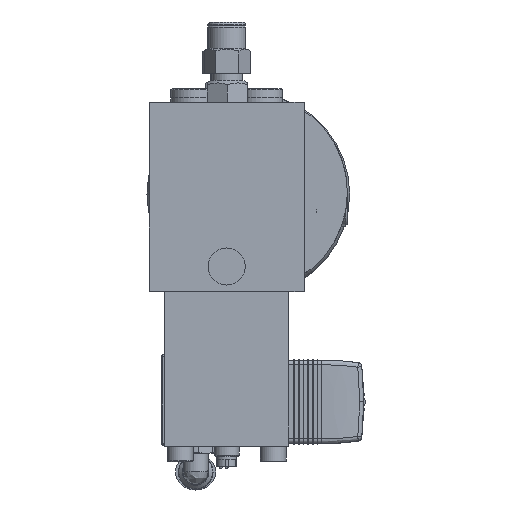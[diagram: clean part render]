
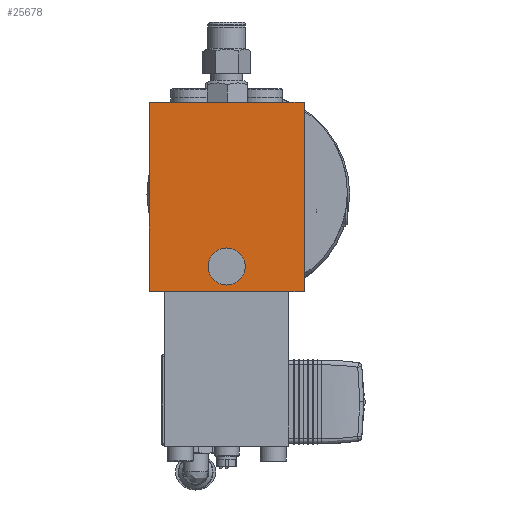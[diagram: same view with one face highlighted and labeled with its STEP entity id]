
A CAD part, top view. The second image highlights one B-rep face of the part: STEP entity #25678.
In plain terms, the highlighted planar face has unit normal (0, 0, 1) as drawn and (0, 1, 0) by its records, which use the part's own axes.
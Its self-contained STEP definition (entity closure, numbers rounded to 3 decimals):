
#2915 = EDGE_CURVE ( 'NONE', #3272, #2946, #18506, .T. ) ;
#2946 = VERTEX_POINT ( 'NONE', #15064 ) ;
#3272 = VERTEX_POINT ( 'NONE', #21891 ) ;
#3746 = CARTESIAN_POINT ( 'NONE',  ( -30.5, 25., 25. ) ) ;
#5003 = DIRECTION ( 'NONE',  ( -1., 0., 0. ) ) ;
#6531 = EDGE_LOOP ( 'NONE', ( #40272 ) ) ;
#6747 = LINE ( 'NONE', #19908, #16063 ) ;
#9585 = DIRECTION ( 'NONE',  ( 0., 1., 0. ) ) ;
#10244 = EDGE_CURVE ( 'NONE', #3272, #17607, #11499, .T. ) ;
#10886 = FACE_OUTER_BOUND ( 'NONE', #31621, .T. ) ;
#11499 = LINE ( 'NONE', #11925, #21053 ) ;
#11925 = CARTESIAN_POINT ( 'NONE',  ( -30.5, 25., 25. ) ) ;
#12497 = ORIENTED_EDGE ( 'NONE', *, *, #2915, .T. ) ;
#14822 = CARTESIAN_POINT ( 'NONE',  ( -30.5, 25., -25. ) ) ;
#15064 = CARTESIAN_POINT ( 'NONE',  ( 30.5, 25., -25. ) ) ;
#15309 = ORIENTED_EDGE ( 'NONE', *, *, #10244, .F. ) ;
#16063 = VECTOR ( 'NONE', #33056, 1000. ) ;
#17607 = VERTEX_POINT ( 'NONE', #40490 ) ;
#18506 = LINE ( 'NONE', #41772, #27460 ) ;
#19493 = DIRECTION ( 'NONE',  ( 0., 0., -1. ) ) ;
#19908 = CARTESIAN_POINT ( 'NONE',  ( -30.5, 25., 25. ) ) ;
#19997 = AXIS2_PLACEMENT_3D ( 'NONE', #39084, #9585, #19493 ) ;
#20160 = PLANE ( 'NONE',  #35103 ) ;
#20680 = CIRCLE ( 'NONE', #19997, 6. ) ;
#21053 = VECTOR ( 'NONE', #5003, 1000. ) ;
#21176 = EDGE_CURVE ( 'NONE', #17607, #22015, #6747, .T. ) ;
#21305 = DIRECTION ( 'NONE',  ( 0., 0., -1. ) ) ;
#21891 = CARTESIAN_POINT ( 'NONE',  ( 30.5, 25., 25. ) ) ;
#22015 = VERTEX_POINT ( 'NONE', #14822 ) ;
#23392 = FACE_BOUND ( 'NONE', #6531, .T. ) ;
#23452 = CARTESIAN_POINT ( 'NONE',  ( -22.5, 25., -6. ) ) ;
#24022 = DIRECTION ( 'NONE',  ( 0., -1., 0. ) ) ;
#25131 = EDGE_CURVE ( 'NONE', #2946, #22015, #36090, .T. ) ;
#25678 = ADVANCED_FACE ( 'NONE', ( #23392, #10886 ), #20160, .F. ) ;
#25853 = EDGE_CURVE ( 'NONE', #26884, #26884, #20680, .T. ) ;
#26173 = CARTESIAN_POINT ( 'NONE',  ( -30.5, 25., -25. ) ) ;
#26884 = VERTEX_POINT ( 'NONE', #23452 ) ;
#27460 = VECTOR ( 'NONE', #21305, 1000. ) ;
#28434 = ORIENTED_EDGE ( 'NONE', *, *, #25131, .T. ) ;
#29606 = DIRECTION ( 'NONE',  ( -1., 0., 0. ) ) ;
#30118 = ORIENTED_EDGE ( 'NONE', *, *, #21176, .F. ) ;
#31621 = EDGE_LOOP ( 'NONE', ( #28434, #30118, #15309, #12497 ) ) ;
#33056 = DIRECTION ( 'NONE',  ( 0., 0., -1. ) ) ;
#33520 = DIRECTION ( 'NONE',  ( 0., 0., -1. ) ) ;
#33724 = VECTOR ( 'NONE', #29606, 1000. ) ;
#35103 = AXIS2_PLACEMENT_3D ( 'NONE', #3746, #24022, #33520 ) ;
#36090 = LINE ( 'NONE', #26173, #33724 ) ;
#39084 = CARTESIAN_POINT ( 'NONE',  ( -22.5, 25., 0. ) ) ;
#40272 = ORIENTED_EDGE ( 'NONE', *, *, #25853, .F. ) ;
#40490 = CARTESIAN_POINT ( 'NONE',  ( -30.5, 25., 25. ) ) ;
#41772 = CARTESIAN_POINT ( 'NONE',  ( 30.5, 25., 25. ) ) ;
